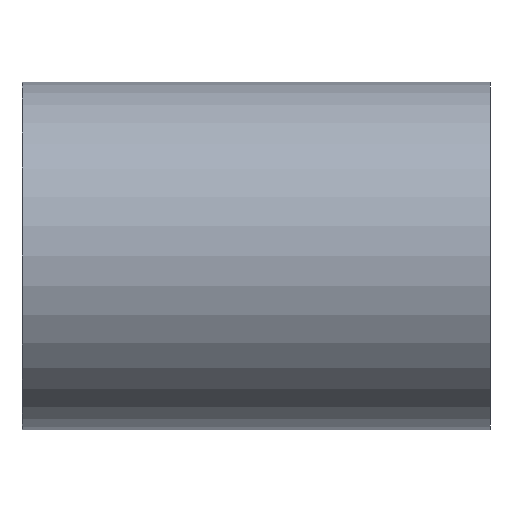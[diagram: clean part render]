
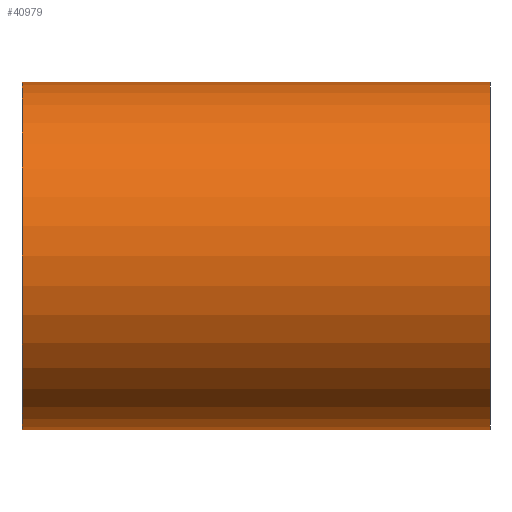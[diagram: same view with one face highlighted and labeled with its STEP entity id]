
A CAD part, left-side view. The second image highlights one B-rep face of the part: STEP entity #40979.
In plain terms, the highlighted cylindrical face has radius 15.975 mm (diameter 31.95 mm), a partial arc.
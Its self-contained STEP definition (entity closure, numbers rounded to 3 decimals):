
#186 = ORIENTED_EDGE ( 'NONE', *, *, #19465, .T. ) ;
#425 = DIRECTION ( 'NONE',  ( 0., 0., 1. ) ) ;
#1122 = CARTESIAN_POINT ( 'NONE',  ( 0., 43., -15.975 ) ) ;
#4577 = DIRECTION ( 'NONE',  ( 0., -1., 0. ) ) ;
#5658 = CARTESIAN_POINT ( 'NONE',  ( 0., 43., -15.975 ) ) ;
#5856 = DIRECTION ( 'NONE',  ( 0., 1., 0. ) ) ;
#6197 = DIRECTION ( 'NONE',  ( 0., 0., 1. ) ) ;
#6561 = CYLINDRICAL_SURFACE ( 'NONE', #41802, 15.975 ) ;
#7757 = VECTOR ( 'NONE', #22957, 1000. ) ;
#7799 = AXIS2_PLACEMENT_3D ( 'NONE', #11927, #5856, #6197 ) ;
#8285 = EDGE_LOOP ( 'NONE', ( #24141, #50165, #186, #35401 ) ) ;
#11263 = DIRECTION ( 'NONE',  ( 0., 1., 0. ) ) ;
#11927 = CARTESIAN_POINT ( 'NONE',  ( 0., 43., 0. ) ) ;
#12320 = VERTEX_POINT ( 'NONE', #28552 ) ;
#12941 = CARTESIAN_POINT ( 'NONE',  ( 0., 43., 0. ) ) ;
#13263 = CIRCLE ( 'NONE', #19774, 15.975 ) ;
#16369 = VERTEX_POINT ( 'NONE', #28195 ) ;
#19465 = EDGE_CURVE ( 'NONE', #25314, #43862, #37740, .T. ) ;
#19774 = AXIS2_PLACEMENT_3D ( 'NONE', #38756, #11263, #425 ) ;
#22957 = DIRECTION ( 'NONE',  ( 0., -1., 0. ) ) ;
#23837 = LINE ( 'NONE', #26949, #7757 ) ;
#23914 = CARTESIAN_POINT ( 'NONE',  ( 0., 0., -15.975 ) ) ;
#24141 = ORIENTED_EDGE ( 'NONE', *, *, #43246, .F. ) ;
#25314 = VERTEX_POINT ( 'NONE', #1122 ) ;
#26949 = CARTESIAN_POINT ( 'NONE',  ( 0., 43., 15.975 ) ) ;
#28195 = CARTESIAN_POINT ( 'NONE',  ( 0., 43., 15.975 ) ) ;
#28552 = CARTESIAN_POINT ( 'NONE',  ( 0., 0., 15.975 ) ) ;
#29550 = CIRCLE ( 'NONE', #7799, 15.975 ) ;
#35178 = EDGE_CURVE ( 'NONE', #25314, #16369, #29550, .T. ) ;
#35401 = ORIENTED_EDGE ( 'NONE', *, *, #43482, .T. ) ;
#37093 = DIRECTION ( 'NONE',  ( 0., -1., 0. ) ) ;
#37129 = VECTOR ( 'NONE', #37093, 1000. ) ;
#37740 = LINE ( 'NONE', #5658, #37129 ) ;
#38756 = CARTESIAN_POINT ( 'NONE',  ( 0., 0., 0. ) ) ;
#40979 = ADVANCED_FACE ( 'NONE', ( #43022 ), #6561, .T. ) ;
#41802 = AXIS2_PLACEMENT_3D ( 'NONE', #12941, #4577, #44767 ) ;
#43022 = FACE_OUTER_BOUND ( 'NONE', #8285, .T. ) ;
#43246 = EDGE_CURVE ( 'NONE', #16369, #12320, #23837, .T. ) ;
#43482 = EDGE_CURVE ( 'NONE', #43862, #12320, #13263, .T. ) ;
#43862 = VERTEX_POINT ( 'NONE', #23914 ) ;
#44767 = DIRECTION ( 'NONE',  ( 0., 0., -1. ) ) ;
#50165 = ORIENTED_EDGE ( 'NONE', *, *, #35178, .F. ) ;
